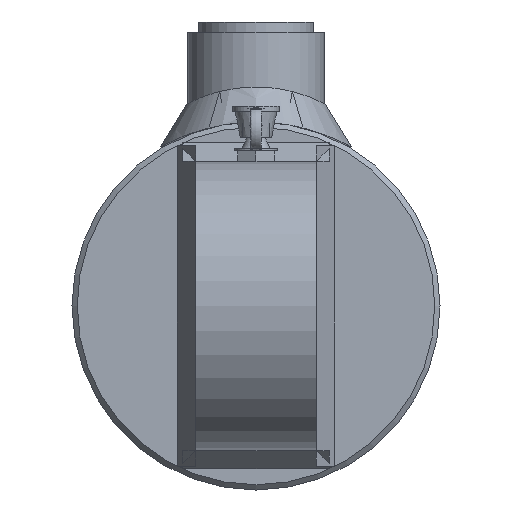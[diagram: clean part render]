
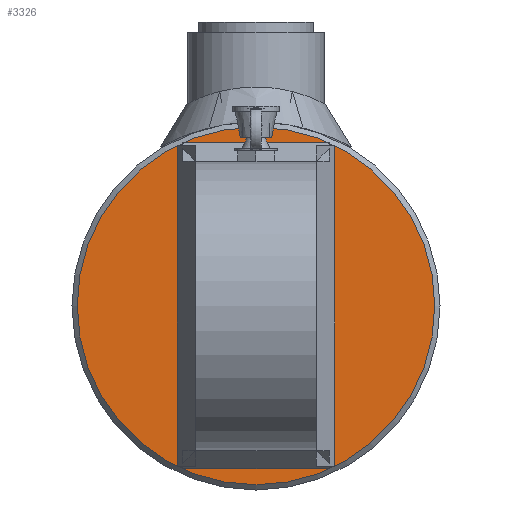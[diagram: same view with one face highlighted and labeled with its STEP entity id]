
A CAD part, left-side view. The second image highlights one B-rep face of the part: STEP entity #3326.
In plain terms, the highlighted planar face has unit normal (-1, 0, 0).
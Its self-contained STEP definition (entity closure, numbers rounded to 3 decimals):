
#3326 = ADVANCED_FACE( '', ( #7691 ), #7692, .T. );
#7691 = FACE_OUTER_BOUND( '', #10016, .T. );
#7692 = PLANE( '', #10017 );
#10016 = EDGE_LOOP( '', ( #11052 ) );
#10017 = AXIS2_PLACEMENT_3D( '', #11053, #11054, #11055 );
#11052 = ORIENTED_EDGE( '', *, *, #12420, .T. );
#11053 = CARTESIAN_POINT( '', ( -12., 0., 0. ) );
#11054 = DIRECTION( '', ( -1., 0., 0. ) );
#11055 = DIRECTION( '', ( 0., -1., 0. ) );
#12420 = EDGE_CURVE( '', #15303, #15303, #15304, .T. );
#15303 = VERTEX_POINT( '', #16411 );
#15304 = CIRCLE( '', #16412, 34. );
#16411 = CARTESIAN_POINT( '', ( -12., -34., 0. ) );
#16412 = AXIS2_PLACEMENT_3D( '', #16613, #16614, #16615 );
#16613 = CARTESIAN_POINT( '', ( -12., 0., 0. ) );
#16614 = DIRECTION( '', ( -1., 0., 0. ) );
#16615 = DIRECTION( '', ( 0., -1., 0. ) );
